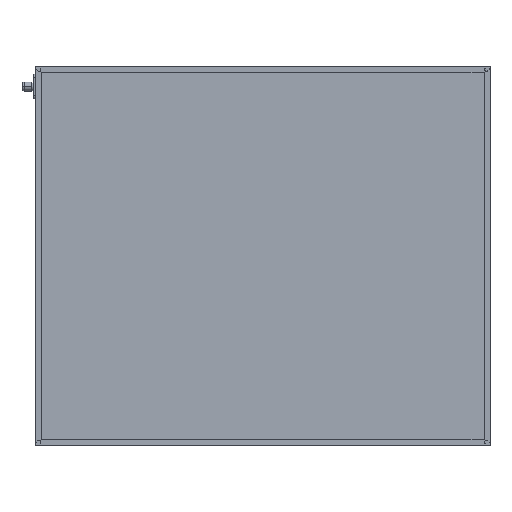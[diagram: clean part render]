
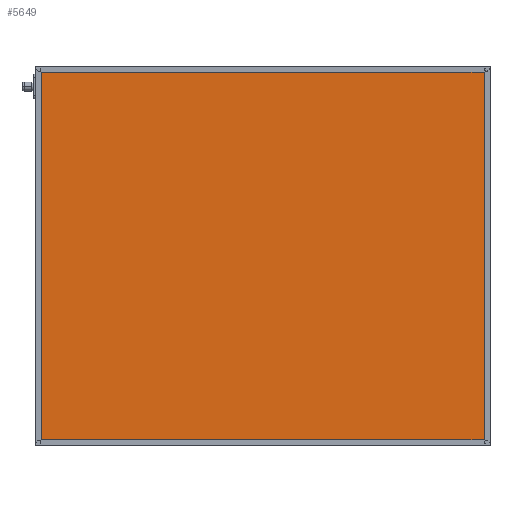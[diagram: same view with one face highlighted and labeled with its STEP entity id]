
A CAD part, top view. The second image highlights one B-rep face of the part: STEP entity #5649.
In plain terms, the highlighted planar face has unit normal (0, 0, 1).
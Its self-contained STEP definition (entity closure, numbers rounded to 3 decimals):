
#67 = CARTESIAN_POINT ( 'NONE',  ( 596., 0., 41.85 ) ) ;
#263 = CARTESIAN_POINT ( 'NONE',  ( 596., 496., 41.85 ) ) ;
#884 = FACE_OUTER_BOUND ( 'NONE', #16097, .T. ) ;
#2592 = DIRECTION ( 'NONE',  ( 0., 1., 0. ) ) ;
#2649 = ORIENTED_EDGE ( 'NONE', *, *, #9822, .T. ) ;
#3007 = CARTESIAN_POINT ( 'NONE',  ( 4., 0., 41.85 ) ) ;
#3086 = DIRECTION ( 'NONE',  ( 0., -1., 0. ) ) ;
#3124 = ORIENTED_EDGE ( 'NONE', *, *, #6020, .T. ) ;
#3142 = VECTOR ( 'NONE', #15647, 1000. ) ;
#4496 = CARTESIAN_POINT ( 'NONE',  ( 596., 4., 41.85 ) ) ;
#4717 = CARTESIAN_POINT ( 'NONE',  ( 0., 0., 41.85 ) ) ;
#5319 = CARTESIAN_POINT ( 'NONE',  ( 0., 4., 41.85 ) ) ;
#5402 = EDGE_CURVE ( 'NONE', #14927, #11507, #8324, .T. ) ;
#5649 = ADVANCED_FACE ( 'NONE', ( #884 ), #12922, .F. ) ;
#6020 = EDGE_CURVE ( 'NONE', #12477, #14927, #6170, .T. ) ;
#6170 = LINE ( 'NONE', #15482, #3142 ) ;
#6238 = AXIS2_PLACEMENT_3D ( 'NONE', #4717, #10047, #7442 ) ;
#7442 = DIRECTION ( 'NONE',  ( -1., 0., 0. ) ) ;
#8324 = LINE ( 'NONE', #3007, #12917 ) ;
#8508 = CARTESIAN_POINT ( 'NONE',  ( 4., 4., 41.85 ) ) ;
#8680 = VERTEX_POINT ( 'NONE', #4496 ) ;
#9000 = VECTOR ( 'NONE', #9496, 1000. ) ;
#9496 = DIRECTION ( 'NONE',  ( 1., 0., 0. ) ) ;
#9822 = EDGE_CURVE ( 'NONE', #8680, #12477, #15828, .T. ) ;
#10047 = DIRECTION ( 'NONE',  ( 0., 0., -1. ) ) ;
#10279 = ORIENTED_EDGE ( 'NONE', *, *, #14699, .T. ) ;
#10558 = LINE ( 'NONE', #5319, #9000 ) ;
#11073 = ORIENTED_EDGE ( 'NONE', *, *, #5402, .T. ) ;
#11507 = VERTEX_POINT ( 'NONE', #8508 ) ;
#12477 = VERTEX_POINT ( 'NONE', #263 ) ;
#12917 = VECTOR ( 'NONE', #3086, 1000. ) ;
#12922 = PLANE ( 'NONE',  #6238 ) ;
#14699 = EDGE_CURVE ( 'NONE', #11507, #8680, #10558, .T. ) ;
#14927 = VERTEX_POINT ( 'NONE', #16362 ) ;
#15482 = CARTESIAN_POINT ( 'NONE',  ( 0., 496., 41.85 ) ) ;
#15647 = DIRECTION ( 'NONE',  ( -1., 0., 0. ) ) ;
#15828 = LINE ( 'NONE', #67, #15903 ) ;
#15903 = VECTOR ( 'NONE', #2592, 1000. ) ;
#16097 = EDGE_LOOP ( 'NONE', ( #2649, #3124, #11073, #10279 ) ) ;
#16362 = CARTESIAN_POINT ( 'NONE',  ( 4., 496., 41.85 ) ) ;
